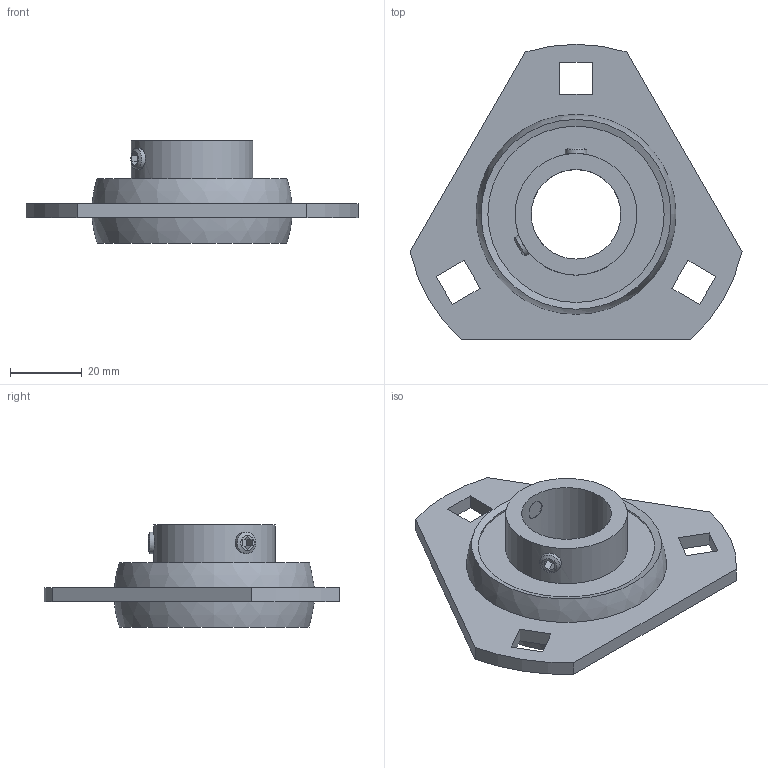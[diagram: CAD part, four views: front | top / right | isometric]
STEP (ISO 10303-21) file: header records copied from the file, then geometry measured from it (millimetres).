
FILE_DESCRIPTION((''),'2;1');
FILE_NAME('\\Ts-tgl068\j-cad-d-base\00.3DCADデータ作成フォルダ\02.フランジ形\BPFT\BPFT5.stp','2014-05-08T08:31:18',('btec_1106_2'),(''),'Autodesk Inventor 2012','Autodesk Inventor 2012','');
FILE_SCHEMA(('AUTOMOTIVE_DESIGN { 1 0 10303 214 1 1 1 1 }'));
Length unit declared in the file: millimetre
Products named in the file (3): BPFT; PFT5; シリーズB [番手=5 ul]
Assembly tree (2 placements, depth 2):
  BPFT
    PFT5
    シリーズB [番手=5 ul]
Bounding box: 92.73 x 82.5 x 28.5 mm (x, y, z)
Volume: 45474.4 mm3; surface area: 21754.6 mm2
Topology: 2 solids, 2 shells, 57 faces, 139 edges, 91 vertices
Faces by surface type: plane 38, cylinder 11, sphere 4, cone 4
Full cylindrical faces by diameter (mm): 6 x2, 25 x1, 34 x1
Entity records: 1748 total; most frequent: CARTESIAN_POINT 400, DIRECTION 260, ORIENTED_EDGE 236, EDGE_CURVE 118, AXIS2_PLACEMENT_3D 88, EDGE_LOOP 86, VERTEX_POINT 84, VECTOR 84
